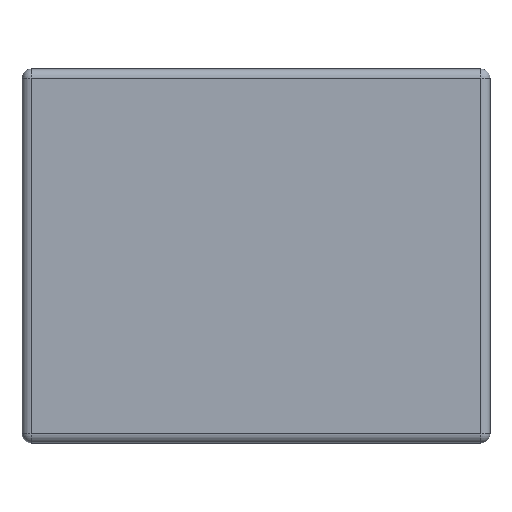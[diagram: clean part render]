
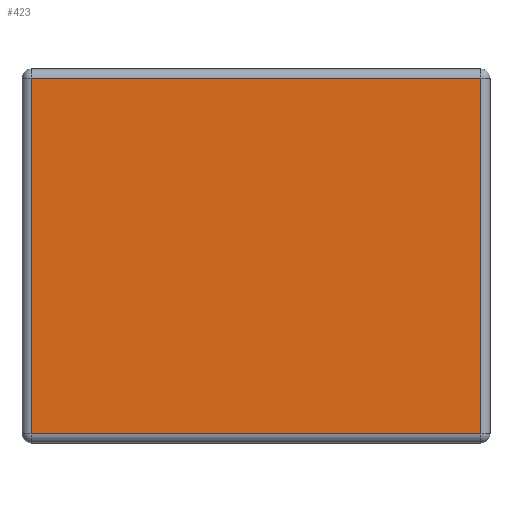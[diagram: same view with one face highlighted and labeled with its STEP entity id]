
A CAD part, front view. The second image highlights one B-rep face of the part: STEP entity #423.
In plain terms, the highlighted planar face has unit normal (0, -1, 0).
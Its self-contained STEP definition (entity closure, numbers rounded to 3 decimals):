
#108=ORIENTED_EDGE('',*,*,#208,.T.);
#109=ORIENTED_EDGE('',*,*,#209,.T.);
#110=ORIENTED_EDGE('',*,*,#210,.T.);
#111=ORIENTED_EDGE('',*,*,#211,.T.);
#208=EDGE_CURVE('',#256,#257,#282,.F.);
#209=EDGE_CURVE('',#257,#258,#283,.F.);
#210=EDGE_CURVE('',#258,#259,#284,.F.);
#211=EDGE_CURVE('',#259,#256,#285,.F.);
#256=VERTEX_POINT('',#749);
#257=VERTEX_POINT('',#750);
#258=VERTEX_POINT('',#752);
#259=VERTEX_POINT('',#754);
#282=LINE('',#748,#302);
#283=LINE('',#751,#303);
#284=LINE('',#753,#304);
#285=LINE('',#755,#305);
#302=VECTOR('',#589,1000.);
#303=VECTOR('',#590,1000.);
#304=VECTOR('',#591,1000.);
#305=VECTOR('',#592,1000.);
#321=EDGE_LOOP('',(#108,#109,#110,#111));
#371=FACE_BOUND('',#321,.T.);
#411=PLANE('',#484);
#423=ADVANCED_FACE('',(#371),#411,.F.);
#484=AXIS2_PLACEMENT_3D('',#747,#587,#588);
#587=DIRECTION('',(0.,1.,0.));
#588=DIRECTION('',(0.,0.,1.));
#589=DIRECTION('',(0.,0.,1.));
#590=DIRECTION('',(-1.,0.,0.));
#591=DIRECTION('',(0.,0.,-1.));
#592=DIRECTION('',(1.,0.,0.));
#747=CARTESIAN_POINT('',(-25.415,0.,19.98));
#748=CARTESIAN_POINT('',(-24.415,0.,19.98));
#749=CARTESIAN_POINT('',(-24.415,0.,18.98));
#750=CARTESIAN_POINT('',(-24.415,0.,-19.62));
#751=CARTESIAN_POINT('',(-25.415,0.,-19.62));
#752=CARTESIAN_POINT('',(24.385,0.,-19.62));
#753=CARTESIAN_POINT('',(24.385,0.,19.98));
#754=CARTESIAN_POINT('',(24.385,0.,18.98));
#755=CARTESIAN_POINT('',(-25.415,0.,18.98));
